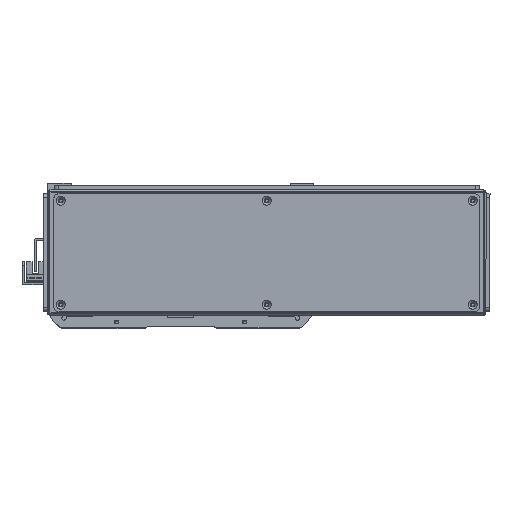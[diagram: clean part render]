
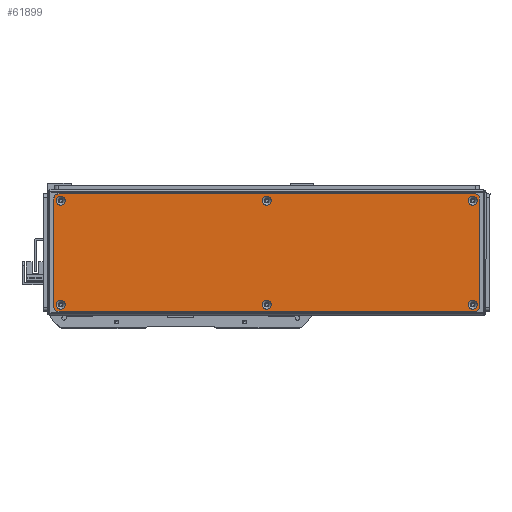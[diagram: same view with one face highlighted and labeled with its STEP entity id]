
A CAD part, front view. The second image highlights one B-rep face of the part: STEP entity #61899.
In plain terms, the highlighted planar face has unit normal (0, -1, 0).
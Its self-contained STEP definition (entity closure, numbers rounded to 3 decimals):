
#2269=FACE_BOUND('',#10041,.T.);
#2270=FACE_BOUND('',#10042,.T.);
#2271=FACE_BOUND('',#10043,.T.);
#2272=FACE_BOUND('',#10044,.T.);
#2273=FACE_BOUND('',#10045,.T.);
#2274=FACE_BOUND('',#10046,.T.);
#3444=CIRCLE('',#66470,3.45);
#3447=CIRCLE('',#66475,3.45);
#3450=CIRCLE('',#66480,3.45);
#3453=CIRCLE('',#66485,3.45);
#3456=CIRCLE('',#66490,3.45);
#3459=CIRCLE('',#66495,3.45);
#3462=CIRCLE('',#66500,3.);
#3464=CIRCLE('',#66503,3.);
#3465=CIRCLE('',#66504,3.);
#3466=CIRCLE('',#66505,3.);
#6525=FACE_OUTER_BOUND('',#10040,.T.);
#10040=EDGE_LOOP('',(#55369,#55370,#55371,#55372,#55373,#55374,#55375,#55376));
#10041=EDGE_LOOP('',(#55377));
#10042=EDGE_LOOP('',(#55378));
#10043=EDGE_LOOP('',(#55379));
#10044=EDGE_LOOP('',(#55380));
#10045=EDGE_LOOP('',(#55381));
#10046=EDGE_LOOP('',(#55382));
#17118=LINE('',#101204,#24313);
#17119=LINE('',#101208,#24314);
#17120=LINE('',#101212,#24315);
#17121=LINE('',#101215,#24316);
#24313=VECTOR('',#81778,10.);
#24314=VECTOR('',#81781,10.);
#24315=VECTOR('',#81784,10.);
#24316=VECTOR('',#81787,10.);
#30122=VERTEX_POINT('',#101134);
#30125=VERTEX_POINT('',#101144);
#30128=VERTEX_POINT('',#101154);
#30131=VERTEX_POINT('',#101164);
#30134=VERTEX_POINT('',#101174);
#30137=VERTEX_POINT('',#101184);
#30140=VERTEX_POINT('',#101194);
#30141=VERTEX_POINT('',#101195);
#30144=VERTEX_POINT('',#101203);
#30145=VERTEX_POINT('',#101205);
#30146=VERTEX_POINT('',#101207);
#30147=VERTEX_POINT('',#101209);
#30148=VERTEX_POINT('',#101211);
#30149=VERTEX_POINT('',#101213);
#38593=EDGE_CURVE('',#30122,#30122,#3444,.T.);
#38598=EDGE_CURVE('',#30125,#30125,#3447,.T.);
#38603=EDGE_CURVE('',#30128,#30128,#3450,.T.);
#38608=EDGE_CURVE('',#30131,#30131,#3453,.T.);
#38613=EDGE_CURVE('',#30134,#30134,#3456,.T.);
#38618=EDGE_CURVE('',#30137,#30137,#3459,.T.);
#38623=EDGE_CURVE('',#30140,#30141,#3462,.T.);
#38627=EDGE_CURVE('',#30140,#30144,#17118,.T.);
#38628=EDGE_CURVE('',#30145,#30144,#3464,.T.);
#38629=EDGE_CURVE('',#30145,#30146,#17119,.T.);
#38630=EDGE_CURVE('',#30147,#30146,#3465,.T.);
#38631=EDGE_CURVE('',#30147,#30148,#17120,.T.);
#38632=EDGE_CURVE('',#30149,#30148,#3466,.T.);
#38633=EDGE_CURVE('',#30149,#30141,#17121,.T.);
#55369=ORIENTED_EDGE('',*,*,#38623,.F.);
#55370=ORIENTED_EDGE('',*,*,#38627,.T.);
#55371=ORIENTED_EDGE('',*,*,#38628,.F.);
#55372=ORIENTED_EDGE('',*,*,#38629,.T.);
#55373=ORIENTED_EDGE('',*,*,#38630,.F.);
#55374=ORIENTED_EDGE('',*,*,#38631,.T.);
#55375=ORIENTED_EDGE('',*,*,#38632,.F.);
#55376=ORIENTED_EDGE('',*,*,#38633,.T.);
#55377=ORIENTED_EDGE('',*,*,#38593,.T.);
#55378=ORIENTED_EDGE('',*,*,#38598,.T.);
#55379=ORIENTED_EDGE('',*,*,#38603,.T.);
#55380=ORIENTED_EDGE('',*,*,#38608,.T.);
#55381=ORIENTED_EDGE('',*,*,#38613,.T.);
#55382=ORIENTED_EDGE('',*,*,#38618,.T.);
#58904=PLANE('',#66502);
#61899=ADVANCED_FACE('',(#6525,#2269,#2270,#2271,#2272,#2273,#2274),#58904,
 .T.);
#66470=AXIS2_PLACEMENT_3D('',#101135,#81698,#81699);
#66475=AXIS2_PLACEMENT_3D('',#101145,#81710,#81711);
#66480=AXIS2_PLACEMENT_3D('',#101155,#81722,#81723);
#66485=AXIS2_PLACEMENT_3D('',#101165,#81734,#81735);
#66490=AXIS2_PLACEMENT_3D('',#101175,#81746,#81747);
#66495=AXIS2_PLACEMENT_3D('',#101185,#81758,#81759);
#66500=AXIS2_PLACEMENT_3D('',#101196,#81770,#81771);
#66502=AXIS2_PLACEMENT_3D('',#101202,#81776,#81777);
#66503=AXIS2_PLACEMENT_3D('',#101206,#81779,#81780);
#66504=AXIS2_PLACEMENT_3D('',#101210,#81782,#81783);
#66505=AXIS2_PLACEMENT_3D('',#101214,#81785,#81786);
#81698=DIRECTION('center_axis',(0.,1.,0.));
#81699=DIRECTION('ref_axis',(1.,0.,0.));
#81710=DIRECTION('center_axis',(0.,1.,0.));
#81711=DIRECTION('ref_axis',(1.,0.,0.));
#81722=DIRECTION('center_axis',(0.,1.,0.));
#81723=DIRECTION('ref_axis',(1.,0.,0.));
#81734=DIRECTION('center_axis',(0.,1.,0.));
#81735=DIRECTION('ref_axis',(1.,0.,0.));
#81746=DIRECTION('center_axis',(0.,1.,0.));
#81747=DIRECTION('ref_axis',(1.,0.,0.));
#81758=DIRECTION('center_axis',(0.,1.,0.));
#81759=DIRECTION('ref_axis',(1.,0.,0.));
#81770=DIRECTION('center_axis',(0.,1.,0.));
#81771=DIRECTION('ref_axis',(-0.707,0.,0.707));
#81776=DIRECTION('center_axis',(0.,-1.,0.));
#81777=DIRECTION('ref_axis',(0.,0.,-1.));
#81778=DIRECTION('',(0.,0.,-1.));
#81779=DIRECTION('center_axis',(0.,1.,0.));
#81780=DIRECTION('ref_axis',(-0.707,0.,-0.707));
#81781=DIRECTION('',(1.,0.,0.));
#81782=DIRECTION('center_axis',(0.,1.,0.));
#81783=DIRECTION('ref_axis',(0.707,0.,-0.707));
#81784=DIRECTION('',(0.,0.,1.));
#81785=DIRECTION('center_axis',(0.,1.,0.));
#81786=DIRECTION('ref_axis',(0.707,0.,0.707));
#81787=DIRECTION('',(-1.,0.,0.));
#101134=CARTESIAN_POINT('',(151.05,-1.5,39.));
#101135=CARTESIAN_POINT('Origin',(154.5,-1.5,39.));
#101144=CARTESIAN_POINT('',(-3.45,-1.5,39.));
#101145=CARTESIAN_POINT('Origin',(0.,-1.5,39.));
#101154=CARTESIAN_POINT('',(-157.95,-1.5,39.));
#101155=CARTESIAN_POINT('Origin',(-154.5,-1.5,39.));
#101164=CARTESIAN_POINT('',(-157.95,-1.5,-39.));
#101165=CARTESIAN_POINT('Origin',(-154.5,-1.5,-39.));
#101174=CARTESIAN_POINT('',(-3.45,-1.5,-39.));
#101175=CARTESIAN_POINT('Origin',(0.,-1.5,-39.));
#101184=CARTESIAN_POINT('',(151.05,-1.5,-39.));
#101185=CARTESIAN_POINT('Origin',(154.5,-1.5,-39.));
#101194=CARTESIAN_POINT('',(-159.5,-1.5,41.));
#101195=CARTESIAN_POINT('',(-156.5,-1.5,44.));
#101196=CARTESIAN_POINT('Origin',(-156.5,-1.5,41.));
#101202=CARTESIAN_POINT('Origin',(0.,-1.5,0.));
#101203=CARTESIAN_POINT('',(-159.5,-1.5,-41.));
#101204=CARTESIAN_POINT('',(-159.5,-1.5,44.));
#101205=CARTESIAN_POINT('',(-156.5,-1.5,-44.));
#101206=CARTESIAN_POINT('Origin',(-156.5,-1.5,-41.));
#101207=CARTESIAN_POINT('',(156.5,-1.5,-44.));
#101208=CARTESIAN_POINT('',(-159.5,-1.5,-44.));
#101209=CARTESIAN_POINT('',(159.5,-1.5,-41.));
#101210=CARTESIAN_POINT('Origin',(156.5,-1.5,-41.));
#101211=CARTESIAN_POINT('',(159.5,-1.5,41.));
#101212=CARTESIAN_POINT('',(159.5,-1.5,-44.));
#101213=CARTESIAN_POINT('',(156.5,-1.5,44.));
#101214=CARTESIAN_POINT('Origin',(156.5,-1.5,41.));
#101215=CARTESIAN_POINT('',(159.5,-1.5,44.));
